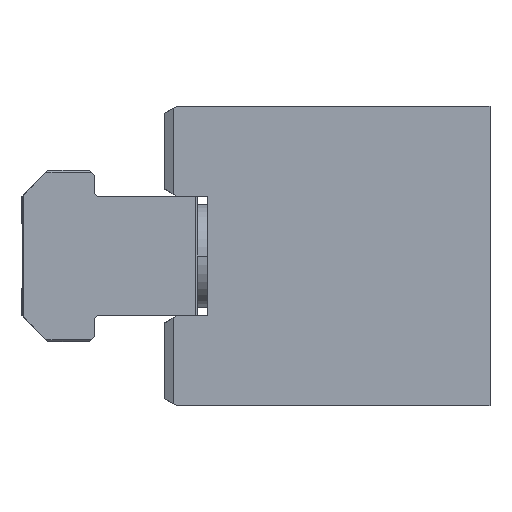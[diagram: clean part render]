
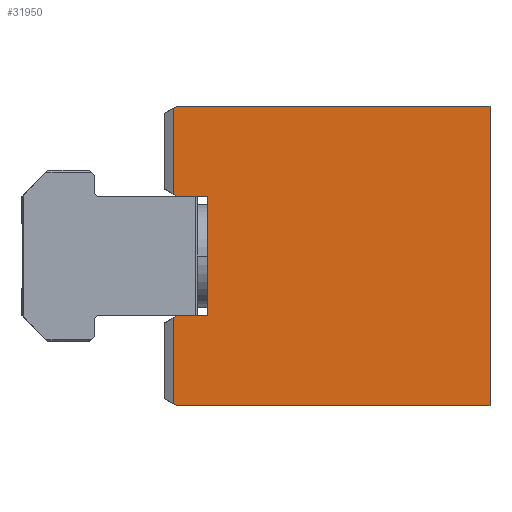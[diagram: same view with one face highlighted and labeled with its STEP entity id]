
A CAD part, front view. The second image highlights one B-rep face of the part: STEP entity #31950.
In plain terms, the highlighted planar face has unit normal (0, -1, 0) as drawn and (-1, 0, 0) by its records, which use the part's own axes.
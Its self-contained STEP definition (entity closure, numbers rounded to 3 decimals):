
#1047 = EDGE_CURVE ( 'NONE', #30038, #30410, #16981, .T. ) ;
#1476 = VECTOR ( 'NONE', #74455, 1000. ) ;
#2068 = DIRECTION ( 'NONE',  ( 0., -0.866, -0.5 ) ) ;
#3377 = LINE ( 'NONE', #65115, #22623 ) ;
#3998 = DIRECTION ( 'NONE',  ( 0., -1., 0. ) ) ;
#4578 = ORIENTED_EDGE ( 'NONE', *, *, #1047, .T. ) ;
#6181 = VERTEX_POINT ( 'NONE', #92533 ) ;
#6270 = DIRECTION ( 'NONE',  ( 0., 0., 1. ) ) ;
#6913 = CARTESIAN_POINT ( 'NONE',  ( -95., 0., -16.692 ) ) ;
#6954 = CARTESIAN_POINT ( 'NONE',  ( -95., 38., 0. ) ) ;
#7213 = DIRECTION ( 'NONE',  ( 0., 0.866, -0.5 ) ) ;
#7318 = EDGE_CURVE ( 'NONE', #10970, #32787, #73771, .T. ) ;
#7675 = CARTESIAN_POINT ( 'NONE',  ( -95., 0., 7. ) ) ;
#7779 = LINE ( 'NONE', #69635, #44089 ) ;
#9102 = CARTESIAN_POINT ( 'NONE',  ( -95., 1.4, -7. ) ) ;
#9330 = CARTESIAN_POINT ( 'NONE',  ( -95., 5., 7. ) ) ;
#9524 = DIRECTION ( 'NONE',  ( 0., -1., 0. ) ) ;
#10970 = VERTEX_POINT ( 'NONE', #12603 ) ;
#11706 = CARTESIAN_POINT ( 'NONE',  ( -95., 38., 17.5 ) ) ;
#11929 = DIRECTION ( 'NONE',  ( 0., 1., 0. ) ) ;
#12415 = LINE ( 'NONE', #9102, #51063 ) ;
#12603 = CARTESIAN_POINT ( 'NONE',  ( -95., 0.949, 7.26 ) ) ;
#12718 = EDGE_CURVE ( 'NONE', #75624, #62461, #29545, .T. ) ;
#12722 = CARTESIAN_POINT ( 'NONE',  ( -95., 0., 0. ) ) ;
#14373 = DIRECTION ( 'NONE',  ( 0., -0.866, -0.5 ) ) ;
#14542 = DIRECTION ( 'NONE',  ( 0., 0., -1. ) ) ;
#16981 = LINE ( 'NONE', #6954, #55614 ) ;
#17420 = EDGE_CURVE ( 'NONE', #84612, #32787, #3377, .T. ) ;
#17566 = CARTESIAN_POINT ( 'NONE',  ( -95., 0.949, 0. ) ) ;
#18199 = ORIENTED_EDGE ( 'NONE', *, *, #80299, .F. ) ;
#19995 = DIRECTION ( 'NONE',  ( 0., 0., 1. ) ) ;
#20268 = FACE_OUTER_BOUND ( 'NONE', #90491, .T. ) ;
#20757 = LINE ( 'NONE', #67193, #1476 ) ;
#21318 = VERTEX_POINT ( 'NONE', #71899 ) ;
#22623 = VECTOR ( 'NONE', #14373, 1000. ) ;
#24671 = CARTESIAN_POINT ( 'NONE',  ( -95., 1.4, 7. ) ) ;
#28519 = CARTESIAN_POINT ( 'NONE',  ( -95., 1.4, -17.5 ) ) ;
#28530 = EDGE_CURVE ( 'NONE', #30410, #93136, #29127, .T. ) ;
#28986 = ORIENTED_EDGE ( 'NONE', *, *, #29666, .T. ) ;
#29127 = LINE ( 'NONE', #67242, #65451 ) ;
#29464 = VECTOR ( 'NONE', #3998, 1000. ) ;
#29545 = LINE ( 'NONE', #17566, #46578 ) ;
#29666 = EDGE_CURVE ( 'NONE', #41416, #6181, #46799, .T. ) ;
#29990 = LINE ( 'NONE', #6913, #47035 ) ;
#30038 = VERTEX_POINT ( 'NONE', #11706 ) ;
#30410 = VERTEX_POINT ( 'NONE', #31296 ) ;
#30986 = CARTESIAN_POINT ( 'NONE',  ( -95., 0.949, 17.24 ) ) ;
#31296 = CARTESIAN_POINT ( 'NONE',  ( -95., 38., -17.5 ) ) ;
#31950 = ADVANCED_FACE ( 'NONE', ( #20268 ), #77684, .T. ) ;
#32001 = DIRECTION ( 'NONE',  ( 0., 0.866, -0.5 ) ) ;
#32194 = VECTOR ( 'NONE', #32001, 1000. ) ;
#32787 = VERTEX_POINT ( 'NONE', #30986 ) ;
#33850 = AXIS2_PLACEMENT_3D ( 'NONE', #12722, #63474, #19995 ) ;
#41416 = VERTEX_POINT ( 'NONE', #9330 ) ;
#43355 = CARTESIAN_POINT ( 'NONE',  ( -95., 0.949, -17.24 ) ) ;
#43840 = DIRECTION ( 'NONE',  ( 0., -1., 0. ) ) ;
#44089 = VECTOR ( 'NONE', #11929, 1000. ) ;
#46578 = VECTOR ( 'NONE', #53789, 1000. ) ;
#46799 = LINE ( 'NONE', #7675, #82950 ) ;
#46906 = EDGE_CURVE ( 'NONE', #10970, #6181, #68509, .T. ) ;
#47035 = VECTOR ( 'NONE', #7213, 1000. ) ;
#47738 = CARTESIAN_POINT ( 'NONE',  ( -95., 1.4, 17.5 ) ) ;
#51063 = VECTOR ( 'NONE', #2068, 1000. ) ;
#53789 = DIRECTION ( 'NONE',  ( 0., 0., 1. ) ) ;
#54893 = ORIENTED_EDGE ( 'NONE', *, *, #7318, .T. ) ;
#55614 = VECTOR ( 'NONE', #14542, 1000. ) ;
#59324 = ORIENTED_EDGE ( 'NONE', *, *, #17420, .F. ) ;
#61916 = ORIENTED_EDGE ( 'NONE', *, *, #46906, .F. ) ;
#62461 = VERTEX_POINT ( 'NONE', #75733 ) ;
#63023 = EDGE_CURVE ( 'NONE', #30038, #84612, #84907, .T. ) ;
#63474 = DIRECTION ( 'NONE',  ( -1., 0., 0. ) ) ;
#65115 = CARTESIAN_POINT ( 'NONE',  ( -95., 0., 16.692 ) ) ;
#65451 = VECTOR ( 'NONE', #9524, 1000. ) ;
#65989 = ORIENTED_EDGE ( 'NONE', *, *, #28530, .T. ) ;
#67193 = CARTESIAN_POINT ( 'NONE',  ( -95., 5., 0. ) ) ;
#67242 = CARTESIAN_POINT ( 'NONE',  ( -95., 0., -17.5 ) ) ;
#67994 = EDGE_CURVE ( 'NONE', #89936, #21318, #7779, .T. ) ;
#68509 = LINE ( 'NONE', #24671, #32194 ) ;
#69635 = CARTESIAN_POINT ( 'NONE',  ( -95., 0., -7. ) ) ;
#71312 = EDGE_CURVE ( 'NONE', #75624, #93136, #29990, .T. ) ;
#71486 = VECTOR ( 'NONE', #6270, 1000. ) ;
#71899 = CARTESIAN_POINT ( 'NONE',  ( -95., 5., -7. ) ) ;
#73771 = LINE ( 'NONE', #92953, #71486 ) ;
#74119 = ORIENTED_EDGE ( 'NONE', *, *, #67994, .T. ) ;
#74455 = DIRECTION ( 'NONE',  ( 0., 0., 1. ) ) ;
#75427 = ORIENTED_EDGE ( 'NONE', *, *, #63023, .F. ) ;
#75624 = VERTEX_POINT ( 'NONE', #43355 ) ;
#75733 = CARTESIAN_POINT ( 'NONE',  ( -95., 0.949, -7.26 ) ) ;
#76037 = ORIENTED_EDGE ( 'NONE', *, *, #71312, .F. ) ;
#76748 = CARTESIAN_POINT ( 'NONE',  ( -95., 1.4, -7. ) ) ;
#77684 = PLANE ( 'NONE',  #33850 ) ;
#79050 = ORIENTED_EDGE ( 'NONE', *, *, #86049, .T. ) ;
#80299 = EDGE_CURVE ( 'NONE', #89936, #62461, #12415, .T. ) ;
#82950 = VECTOR ( 'NONE', #43840, 1000. ) ;
#84612 = VERTEX_POINT ( 'NONE', #85669 ) ;
#84907 = LINE ( 'NONE', #47738, #29464 ) ;
#85669 = CARTESIAN_POINT ( 'NONE',  ( -95., 1.4, 17.5 ) ) ;
#86049 = EDGE_CURVE ( 'NONE', #21318, #41416, #20757, .T. ) ;
#89936 = VERTEX_POINT ( 'NONE', #76748 ) ;
#90491 = EDGE_LOOP ( 'NONE', ( #28986, #61916, #54893, #59324, #75427, #4578, #65989, #76037, #92140, #18199, #74119, #79050 ) ) ;
#92140 = ORIENTED_EDGE ( 'NONE', *, *, #12718, .T. ) ;
#92533 = CARTESIAN_POINT ( 'NONE',  ( -95., 1.4, 7. ) ) ;
#92953 = CARTESIAN_POINT ( 'NONE',  ( -95., 0.949, 0. ) ) ;
#93136 = VERTEX_POINT ( 'NONE', #28519 ) ;
